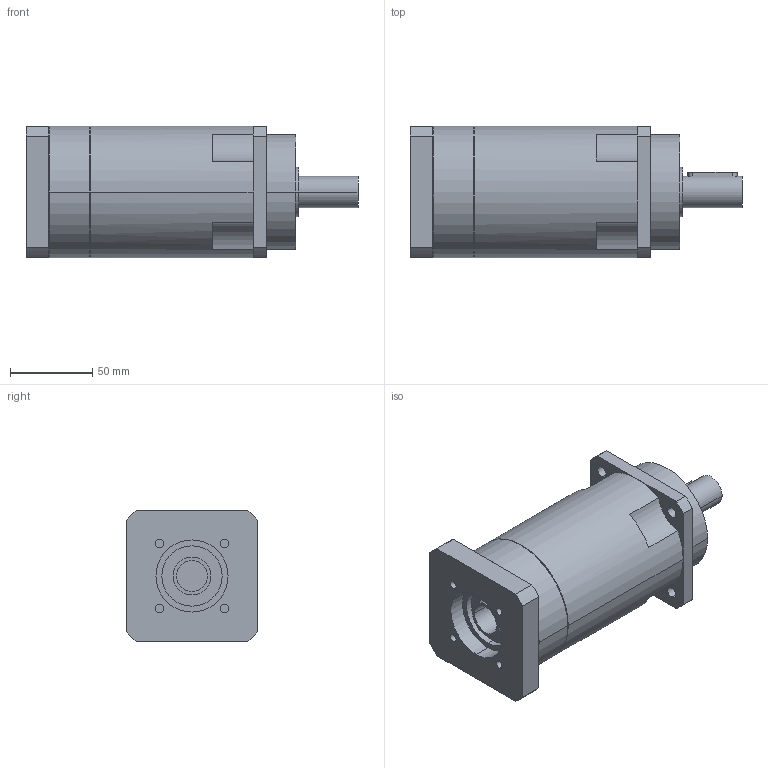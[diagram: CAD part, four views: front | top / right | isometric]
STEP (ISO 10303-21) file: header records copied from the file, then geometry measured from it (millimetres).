
FILE_DESCRIPTION(('CoCreate Modeling STEP Export'),'2;1');
FILE_NAME('GPR100_ig-48-64-80-100-120-144-180-216_19_B5_19_P31.stp','2014-08-26T11:56:35',(''),(''),'CoCreate Modeling STEP processor for AP214 (Solid Model)','CoCreate Modeling 16.00C 25-Feb-2009 (C) Parametric Technology GmbH','');
FILE_SCHEMA(('AUTOMOTIVE_DESIGN { 1 0 10303 214 1 1 1 1 }'));
Length unit declared in the file: millimetre
Products named in the file (2): GPR100_ig-48-64-80-100-120-144-180-216_19_B5_19_P31
Assembly tree (1 placements, depth 2):
  GPR100_ig-48-64-80-100-120-144-180-216_19_B5_19_P31
    GPR100_ig-48-64-80-100-120-144-180-216_19_B5_19_P31
Bounding box: 202.4 x 80 x 80 mm (x, y, z)
Volume: 807775.7 mm3; surface area: 66627.7 mm2
Topology: 1 solids, 1 shells, 90 faces, 241 edges, 165 vertices
Faces by surface type: cylinder 50, plane 34, cone 6
Entity records: 2551 total; most frequent: ORIENTED_EDGE 478, CARTESIAN_POINT 464, DIRECTION 376, EDGE_CURVE 239, VERTEX_POINT 165, AXIS2_PLACEMENT_3D 141, EDGE_LOOP 112, VECTOR 94
